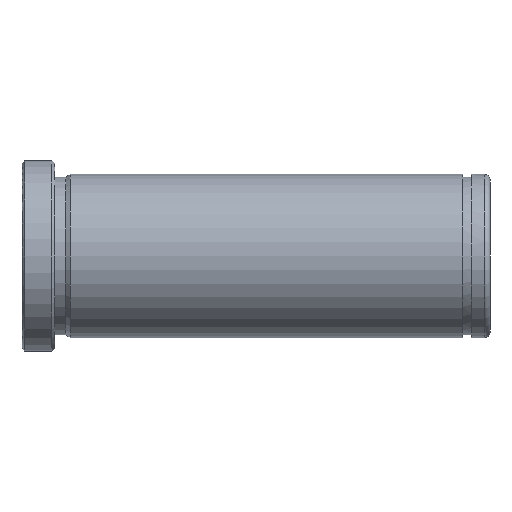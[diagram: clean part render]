
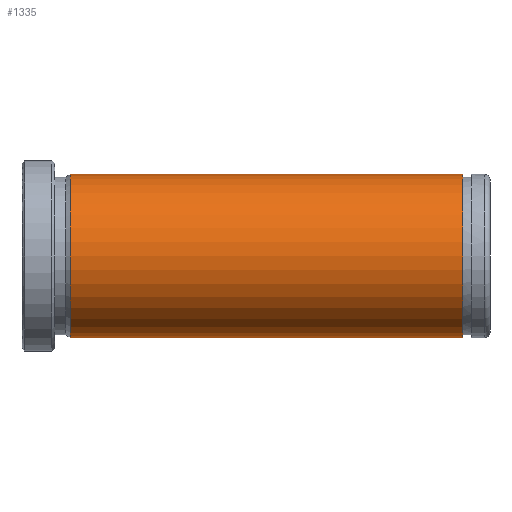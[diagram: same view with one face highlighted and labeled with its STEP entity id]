
A CAD part, front view. The second image highlights one B-rep face of the part: STEP entity #1335.
In plain terms, the highlighted cylindrical face has radius 15 mm (diameter 30 mm), a partial arc.
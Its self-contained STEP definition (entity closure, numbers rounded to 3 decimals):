
#1197=CARTESIAN_POINT('Vertex',(81.,0.,15.)) ;
#1200=CARTESIAN_POINT('Axis2P3D Location',(81.,0.,0.)) ;
#1204=CARTESIAN_POINT('Vertex',(81.,-15.,0.)) ;
#1207=CARTESIAN_POINT('Axis2P3D Location',(81.,0.,0.)) ;
#1211=CARTESIAN_POINT('Vertex',(81.,0.,-15.)) ;
#1241=CARTESIAN_POINT('Vertex',(8.866,0.,-15.)) ;
#1248=CARTESIAN_POINT('Vertex',(8.866,0.,15.)) ;
#1277=CARTESIAN_POINT('Axis2P3D Location',(8.866,0.,0.)) ;
#1281=CARTESIAN_POINT('Vertex',(8.866,-15.,0.)) ;
#1284=CARTESIAN_POINT('Axis2P3D Location',(8.866,0.,0.)) ;
#1303=CARTESIAN_POINT('Line Origine',(172.,0.,15.)) ;
#1308=CARTESIAN_POINT('Line Origine',(172.,0.,-15.)) ;
#1322=CARTESIAN_POINT('Axis2P3D Location',(172.,0.,0.)) ;
#1201=DIRECTION('Axis2P3D Direction',(1.,0.,-0.)) ;
#1208=DIRECTION('Axis2P3D Direction',(1.,0.,-0.)) ;
#1278=DIRECTION('Axis2P3D Direction',(1.,0.,-0.)) ;
#1285=DIRECTION('Axis2P3D Direction',(1.,0.,-0.)) ;
#1304=DIRECTION('Vector Direction',(-1.,0.,0.)) ;
#1309=DIRECTION('Vector Direction',(-1.,0.,0.)) ;
#1323=DIRECTION('Axis2P3D Direction',(-1.,-0.,-0.)) ;
#1324=DIRECTION('Axis2P3D XDirection',(0.,0.,-1.)) ;
#1202=AXIS2_PLACEMENT_3D('Circle Axis2P3D',#1200,#1201,$) ;
#1209=AXIS2_PLACEMENT_3D('Circle Axis2P3D',#1207,#1208,$) ;
#1279=AXIS2_PLACEMENT_3D('Circle Axis2P3D',#1277,#1278,$) ;
#1286=AXIS2_PLACEMENT_3D('Circle Axis2P3D',#1284,#1285,$) ;
#1325=AXIS2_PLACEMENT_3D('Cylinder Axis2P3D',#1322,#1323,#1324) ;
#1328=ORIENTED_EDGE('',*,*,#1312,.T.) ;
#1329=ORIENTED_EDGE('',*,*,#1213,.F.) ;
#1330=ORIENTED_EDGE('',*,*,#1206,.F.) ;
#1331=ORIENTED_EDGE('',*,*,#1307,.T.) ;
#1332=ORIENTED_EDGE('',*,*,#1288,.T.) ;
#1333=ORIENTED_EDGE('',*,*,#1283,.T.) ;
#1305=VECTOR('Line Direction',#1304,1.) ;
#1310=VECTOR('Line Direction',#1309,1.) ;
#1335=ADVANCED_FACE('553-24X86',(#1334),#1326,.T.) ;
#1203=CIRCLE('generated circle',#1202,15.) ;
#1210=CIRCLE('generated circle',#1209,15.) ;
#1280=CIRCLE('generated circle',#1279,15.) ;
#1287=CIRCLE('generated circle',#1286,15.) ;
#1326=CYLINDRICAL_SURFACE('generated cylinder',#1325,15.) ;
#1206=EDGE_CURVE('',#1198,#1205,#1203,.T.) ;
#1213=EDGE_CURVE('',#1205,#1212,#1210,.T.) ;
#1283=EDGE_CURVE('',#1282,#1242,#1280,.T.) ;
#1288=EDGE_CURVE('',#1249,#1282,#1287,.T.) ;
#1307=EDGE_CURVE('',#1198,#1249,#1306,.T.) ;
#1312=EDGE_CURVE('',#1242,#1212,#1311,.F.) ;
#1327=EDGE_LOOP('',(#1328,#1329,#1330,#1331,#1332,#1333)) ;
#1334=FACE_OUTER_BOUND('',#1327,.T.) ;
#1306=LINE('Line',#1303,#1305) ;
#1311=LINE('Line',#1308,#1310) ;
#1198=VERTEX_POINT('',#1197) ;
#1205=VERTEX_POINT('',#1204) ;
#1212=VERTEX_POINT('',#1211) ;
#1242=VERTEX_POINT('',#1241) ;
#1249=VERTEX_POINT('',#1248) ;
#1282=VERTEX_POINT('',#1281) ;
